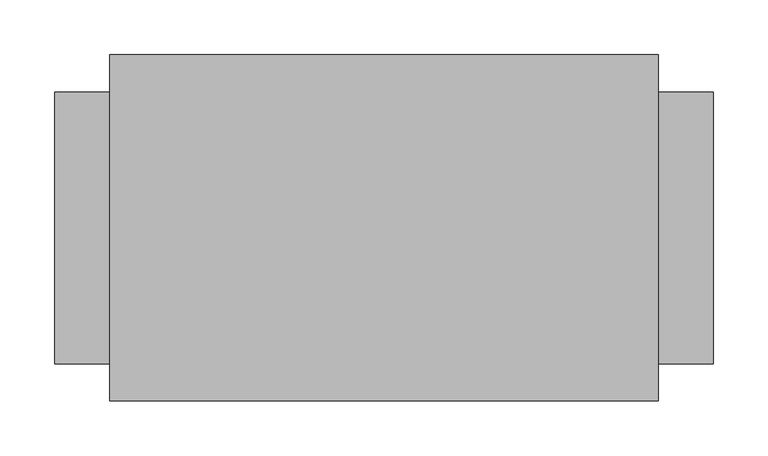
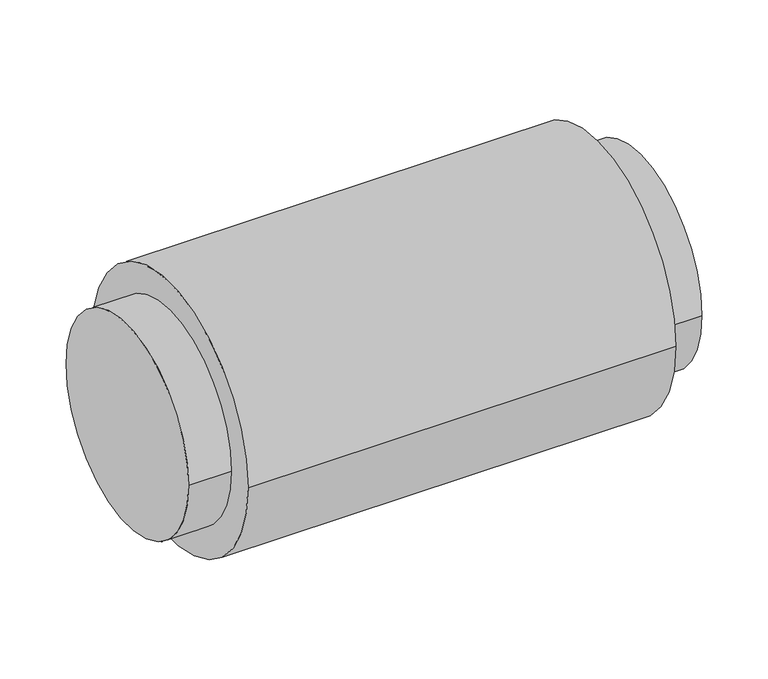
"""IFC4 building model written with IfcOpenShell, lengths in millimetres: damper geometry, VE-Tłumik_Akustyczny-ParaForma-Harmann-FLEXITEC : 250-0500."""

import ifcopenshell
import ifcopenshell.guid

model = None  # the IFC model being written
_history = None  # IfcOwnerHistory: only IFC2X3 demands one
_inside = {}  # id of a spatial element -> (the spatial element, [elements in it])
_under = {}  # id of a project, library or spatial element -> (it, [spatial elements below it])
_declared = {}  # id of a project -> (the project, [libraries it declares])
_typed = {}  # id of a type object -> (the type object, [elements of that type])
_made_of = {}  # id of a material, layer set ... -> (it, [elements and type objects made of it])


def new_model(schema):
    """Start an empty IFC model of exactly this schema.

    Asked for "IFC4X3", IfcOpenShell would pick the latest addendum, in which some entities
    have other attributes; the version numbers below select the first issue.
    IFC2X3 requires an IfcOwnerHistory on every rooted entity: one is made here for all.
    """
    global model, _history
    if schema == "IFC4X3":
        model = ifcopenshell.file(schema_version=(4, 3, 0, 0))
    else:
        model = ifcopenshell.file(schema=schema)
    _inside.clear()
    _under.clear()
    _declared.clear()
    _typed.clear()
    _made_of.clear()
    _history = None
    if model.schema == "IFC2X3":
        org = make("IfcOrganization", Name="unknown")
        user = make(
            "IfcPersonAndOrganization",
            ThePerson=make("IfcPerson", FamilyName="unknown"),
            TheOrganization=org,
        )
        app = make(
            "IfcApplication",
            ApplicationDeveloper=org,
            Version="unknown",
            ApplicationFullName="unknown",
            ApplicationIdentifier="unknown",
        )
        _history = make(
            "IfcOwnerHistory",
            OwningUser=user,
            OwningApplication=app,
            ChangeAction="ADDED",
            CreationDate=0,
        )
    return model


def make(cls, **values):
    """One entity of the class cls with the attributes given. An attribute that is None is left unset."""
    return model.create_entity(
        cls, **{name: value for name, value in values.items() if value is not None}
    )


def rooted(cls, **values):
    """An entity with a GlobalId (a new one), such as an element, a storey or a relation."""
    return make(cls, GlobalId=ifcopenshell.guid.new(), OwnerHistory=_history, **values)


def si_unit(unit_type, name, prefix=None):
    """IfcSIUnit, for example si_unit("LENGTHUNIT", "METRE", prefix="MILLI")."""
    return make("IfcSIUnit", UnitType=unit_type, Prefix=prefix, Name=name)


def assignment(units):
    """IfcUnitAssignment: the units of a project."""
    return None if units is None else make("IfcUnitAssignment", Units=units)


def point(xyz):
    """IfcCartesianPoint."""
    return None if xyz is None else make("IfcCartesianPoint", Coordinates=xyz)


def direction(xyz):
    """IfcDirection."""
    return None if xyz is None else make("IfcDirection", DirectionRatios=xyz)


def frame(location, z_axis=None, x_axis=None):
    """IfcAxis2Placement3D, a coordinate frame: its origin and axes. An axis left out is left unset."""
    return make(
        "IfcAxis2Placement3D",
        Location=point(location),
        Axis=direction(z_axis),
        RefDirection=direction(x_axis),
    )


def frame_2d(location, x_axis=None):
    """IfcAxis2Placement2D, a coordinate frame in the plane: its origin and x axis."""
    return make(
        "IfcAxis2Placement2D", Location=point(location), RefDirection=direction(x_axis)
    )


def origin():
    """The frame at (0, 0, 0) with its axes left unset."""
    return frame((0.0, 0.0, 0.0))


def origin_2d():
    """The frame at (0, 0) in the plane with its x axis left unset."""
    return frame_2d((0.0, 0.0))


def place(relative_to, where):
    """IfcLocalPlacement: puts the frame where relative to a parent placement (None: the world)."""
    return make(
        "IfcLocalPlacement", PlacementRelTo=relative_to, RelativePlacement=where
    )


def context(
    kind, dimensions, precision=None, world=None, true_north=None, identifier=None
):
    """IfcGeometricRepresentationContext, for example the 3D "Model" context."""
    return make(
        "IfcGeometricRepresentationContext",
        ContextIdentifier=identifier,
        ContextType=kind,
        CoordinateSpaceDimension=dimensions,
        Precision=precision,
        WorldCoordinateSystem=world,
        TrueNorth=true_north,
    )


def project(units=None, contexts=None):
    """IfcProject with its units and contexts."""
    return rooted(
        "IfcProject",
        Name="project",
        RepresentationContexts=contexts,
        UnitsInContext=assignment(units),
    )


def spatial(cls, under=None, at=None, **own):
    """A site, building, storey or space (cls), placed at a placement, below another one or the project."""
    s = rooted(cls, ObjectPlacement=at, **own)
    if under is not None:
        _under.setdefault(under.id(), (under, []))[1].append(s)
    return s


def circle_curve(where, radius):
    """IfcCircle in the frame where."""
    return make("IfcCircle", Position=where, Radius=radius)


def trimmed(basis, trim1, trim2, sense, master):
    """IfcTrimmedCurve: the piece of a basis curve between two trims."""
    return make(
        "IfcTrimmedCurve",
        BasisCurve=basis,
        Trim1=trim1,
        Trim2=trim2,
        SenseAgreement=sense,
        MasterRepresentation=master,
    )


def segment(curve, same_sense, transition):
    """IfcCompositeCurveSegment."""
    return make(
        "IfcCompositeCurveSegment",
        Transition=transition,
        SameSense=same_sense,
        ParentCurve=curve,
    )


def composite_curve(segments, self_intersect=None):
    """IfcCompositeCurve: segments joined end to end."""
    return make("IfcCompositeCurve", Segments=segments, SelfIntersect=self_intersect)


def outline(outer, holes=None, kind="AREA"):
    """IfcArbitraryClosedProfileDef: a profile drawn as a closed curve; with holes, ...WithVoids."""
    if holes is None:
        return make("IfcArbitraryClosedProfileDef", ProfileType=kind, OuterCurve=outer)
    return make(
        "IfcArbitraryProfileDefWithVoids",
        ProfileType=kind,
        OuterCurve=outer,
        InnerCurves=holes,
    )


def extrude(swept, where, along, depth):
    """IfcExtrudedAreaSolid: the profile swept, set in the frame where, extruded along a direction by depth."""
    return make(
        "IfcExtrudedAreaSolid",
        SweptArea=swept,
        Position=where,
        ExtrudedDirection=direction(along),
        Depth=depth,
    )


def shape(context_of_items, identifier, shape_type, items):
    """IfcShapeRepresentation: the items that make up one representation, for example the "Body"."""
    return make(
        "IfcShapeRepresentation",
        ContextOfItems=context_of_items,
        RepresentationIdentifier=identifier,
        RepresentationType=shape_type,
        Items=items,
    )


def source(mapping_origin, context_of_items, identifier, shape_type, items):
    """IfcRepresentationMap: a shape defined once, which mapped items show again and again."""
    return make(
        "IfcRepresentationMap",
        MappingOrigin=mapping_origin,
        MappedRepresentation=shape(context_of_items, identifier, shape_type, items),
    )


def transform(
    local_origin,
    x_axis=None,
    y_axis=None,
    z_axis=None,
    scale=None,
    scale2=None,
    scale3=None,
    uniform=True,
):
    """IfcCartesianTransformationOperator3D, or its non-uniform kind. x_axis, y_axis, z_axis: its Axis1, 2, 3."""
    if uniform:
        return make(
            "IfcCartesianTransformationOperator3D",
            Axis1=direction(x_axis),
            Axis2=direction(y_axis),
            LocalOrigin=point(local_origin),
            Scale=scale,
            Axis3=direction(z_axis),
        )
    return make(
        "IfcCartesianTransformationOperator3DnonUniform",
        Axis1=direction(x_axis),
        Axis2=direction(y_axis),
        LocalOrigin=point(local_origin),
        Scale=scale,
        Axis3=direction(z_axis),
        Scale2=scale2,
        Scale3=scale3,
    )


def mapped(mapping_source, mapping_target):
    """IfcMappedItem: shows the shape of a source again, moved by a transform."""
    return make(
        "IfcMappedItem", MappingSource=mapping_source, MappingTarget=mapping_target
    )


def made_of(thing, what):
    """Note that an element or type object is made of a material, layer set ...; save() writes the relation."""
    if what is not None:
        _made_of.setdefault(what.id(), (what, []))[1].append(thing)
    return thing


def element(
    cls,
    number,
    at=None,
    inside=None,
    cuts=None,
    type_object=None,
    material=None,
    context=None,
    identifier="Body",
    shape_type=None,
    held_by="IfcProductDefinitionShape",
    body=None,
    shapes=None,
    **own,
):
    """One element of the class cls, such as IfcWall. Its Tag is "e" and its number.

    at: its placement. inside: the storey or other place that contains it. cuts: it is an
    opening in that element (IfcRelVoidsElement). A single representation is given by context,
    identifier, shape_type and body (its items); several are given by shapes. held_by: the class
    of the entity that holds the representations. save() writes the other relations.
    """
    e = rooted(cls, Tag="e%d" % number, ObjectPlacement=at, **own)
    if body is not None:
        shapes = [shape(context, identifier, shape_type, body)]
    if shapes is not None:
        e.Representation = make(held_by, Representations=shapes)
    if inside is not None:
        _inside.setdefault(inside.id(), (inside, []))[1].append(e)
    if cuts is not None:
        rooted(
            "IfcRelVoidsElement", RelatingBuildingElement=cuts, RelatedOpeningElement=e
        )
    if type_object is not None:
        _typed.setdefault(type_object.id(), (type_object, []))[1].append(e)
    return made_of(e, material)


def aggregate(whole, parts):
    """IfcRelAggregates: a whole, such as a stair, and the parts it consists of."""
    return rooted("IfcRelAggregates", RelatingObject=whole, RelatedObjects=parts)


def save(model, path):
    """Write the relations noted so far, then the file.

    IfcRelAggregates (storeys below a building ...), IfcRelContainedInSpatialStructure (elements
    in a storey), IfcRelDefinesByType, IfcRelAssociatesMaterial and IfcRelDeclares: one each for
    every whole, place, type object, material and project.
    """
    for whole, parts in _under.values():
        aggregate(whole, parts)
    for where, things in _inside.values():
        rooted(
            "IfcRelContainedInSpatialStructure",
            RelatedElements=things,
            RelatingStructure=where,
        )
    for kind, things in _typed.values():
        rooted("IfcRelDefinesByType", RelatedObjects=things, RelatingType=kind)
    for what, things in _made_of.values():
        rooted("IfcRelAssociatesMaterial", RelatedObjects=things, RelatingMaterial=what)
    for by, libraries in _declared.values():
        rooted("IfcRelDeclares", RelatingContext=by, RelatedDefinitions=libraries)
    model.write(path)


def damper_d7772320(model_context):
    return source(origin(), model_context, "Body", "SweptSolid", [
        extrude(outline(composite_curve([segment(trimmed(circle_curve(origin_2d(), 124.0), [point((-124.0, 0.0))], [point((124.0, 0.0))], False, "CARTESIAN"), True, "CONTINUOUS"), segment(trimmed(circle_curve(origin_2d(), 124.0), [point((124.0, 0.0))], [point((-124.0, 0.0))], False, "CARTESIAN"), True, "CONTINUOUS")], self_intersect=False)), frame((250.0, 0.0, 0.0), z_axis=(1.0, 0.0, 0.0), x_axis=(0.0, 1.0, 0.0)), (0.0, 0.0, 1.0), 50.0),
        extrude(outline(composite_curve([segment(trimmed(circle_curve(origin_2d(), 124.0), [point((-124.0, 0.0))], [point((124.0, 0.0))], False, "CARTESIAN"), True, "CONTINUOUS"), segment(trimmed(circle_curve(origin_2d(), 124.0), [point((124.0, 0.0))], [point((-124.0, 0.0))], False, "CARTESIAN"), True, "CONTINUOUS")], self_intersect=False)), frame((-300.0, 0.0, 0.0), z_axis=(1.0, 0.0, 0.0), x_axis=(0.0, 1.0, 0.0)), (0.0, 0.0, 1.0), 50.0),
        extrude(outline(composite_curve([segment(trimmed(circle_curve(origin_2d(), 157.95), [point((-157.95, 0.0))], [point((157.95, 0.0))], False, "CARTESIAN"), True, "CONTINUOUS"), segment(trimmed(circle_curve(origin_2d(), 157.95), [point((157.95, 0.0))], [point((-157.95, 0.0))], False, "CARTESIAN"), True, "CONTINUOUS")], self_intersect=False)), frame((-250.0, 0.0, 0.0), z_axis=(1.0, 0.0, 0.0), x_axis=(0.0, 1.0, 0.0)), (0.0, 0.0, 1.0), 500.0),
    ])


if __name__ == "__main__":
    model = new_model("IFC4")
    model_context = context("Model", 3, world=origin())
    ifc_project = project(units=[si_unit("LENGTHUNIT", "METRE", prefix="MILLI")], contexts=[model_context])
    site = spatial("IfcSite", under=ifc_project)
    building = spatial("IfcBuilding", under=site)
    placement = place(None, origin())
    damper_shape = damper_d7772320(model_context)
    element("IfcDamper", 1, ObjectType="VE-Tłumik_Akustyczny-ParaForma-Harmann-FLEXITEC : 250-0500", at=placement, inside=building, context=model_context, shape_type="MappedRepresentation", body=[
        mapped(damper_shape, transform((0.0, 0.0, 0.0), x_axis=(1.0, 0.0, 0.0), y_axis=(0.0, 1.0, 0.0), z_axis=(0.0, 0.0, 1.0))),
    ])
    save(model, "model.ifc")
